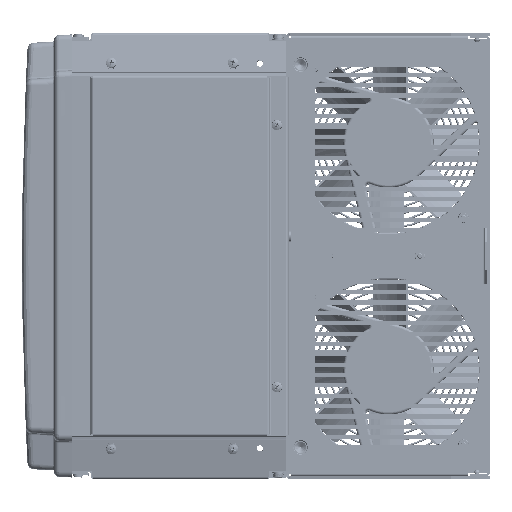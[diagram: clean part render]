
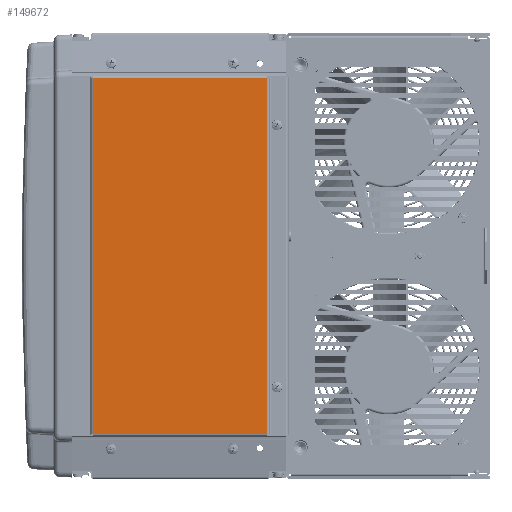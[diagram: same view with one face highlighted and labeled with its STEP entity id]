
A CAD part, left-side view. The second image highlights one B-rep face of the part: STEP entity #149672.
In plain terms, the highlighted planar face has unit normal (-1, 0, 0) as drawn and (0, 0, -1) by its records, which use the part's own axes.
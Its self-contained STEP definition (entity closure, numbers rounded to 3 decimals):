
#10279 = DIRECTION ( 'NONE',  ( 1., 0., 0. ) ) ;
#30749 = FACE_OUTER_BOUND ( 'NONE', #452975, .T. ) ;
#64005 = CARTESIAN_POINT ( 'NONE',  ( -137.5, 173.5, 0. ) ) ;
#104866 = DIRECTION ( 'NONE',  ( 0., 0., 1. ) ) ;
#123897 = CARTESIAN_POINT ( 'NONE',  ( -151.5, 147., 0. ) ) ;
#127893 = VERTEX_POINT ( 'NONE', #154317 ) ;
#149672 = ADVANCED_FACE ( 'NONE', ( #30749 ), #307366, .F. ) ;
#154317 = CARTESIAN_POINT ( 'NONE',  ( -135.5, 14.5, 0. ) ) ;
#157010 = ORIENTED_EDGE ( 'NONE', *, *, #262521, .F. ) ;
#164692 = DIRECTION ( 'NONE',  ( 1., 0., 0. ) ) ;
#175442 = AXIS2_PLACEMENT_3D ( 'NONE', #64005, #104866, #388998 ) ;
#181229 = CARTESIAN_POINT ( 'NONE',  ( -135.5, 173.5, 0. ) ) ;
#183364 = VECTOR ( 'NONE', #470197, 1000. ) ;
#196083 = LINE ( 'NONE', #511006, #183364 ) ;
#238223 = EDGE_CURVE ( 'NONE', #483480, #504192, #196083, .T. ) ;
#248612 = CARTESIAN_POINT ( 'NONE',  ( 135.5, 14.5, 0. ) ) ;
#257948 = CARTESIAN_POINT ( 'NONE',  ( -135.5, 147., 0. ) ) ;
#262521 = EDGE_CURVE ( 'NONE', #466243, #127893, #341449, .T. ) ;
#275946 = ORIENTED_EDGE ( 'NONE', *, *, #238223, .T. ) ;
#277623 = CARTESIAN_POINT ( 'NONE',  ( 135.5, 147., 0. ) ) ;
#296209 = CARTESIAN_POINT ( 'NONE',  ( -151.5, 14.5, 0. ) ) ;
#307366 = PLANE ( 'NONE',  #175442 ) ;
#314341 = EDGE_CURVE ( 'NONE', #127893, #504192, #524961, .T. ) ;
#341449 = LINE ( 'NONE', #181229, #449608 ) ;
#388998 = DIRECTION ( 'NONE',  ( 1., 0., 0. ) ) ;
#389361 = VECTOR ( 'NONE', #164692, 1000. ) ;
#404191 = EDGE_CURVE ( 'NONE', #466243, #483480, #510229, .T. ) ;
#411126 = ORIENTED_EDGE ( 'NONE', *, *, #314341, .F. ) ;
#416901 = VECTOR ( 'NONE', #10279, 1000. ) ;
#420973 = DIRECTION ( 'NONE',  ( 0., -1., 0. ) ) ;
#449608 = VECTOR ( 'NONE', #420973, 1000. ) ;
#452975 = EDGE_LOOP ( 'NONE', ( #275946, #411126, #157010, #522097 ) ) ;
#466243 = VERTEX_POINT ( 'NONE', #257948 ) ;
#470197 = DIRECTION ( 'NONE',  ( 0., -1., 0. ) ) ;
#483480 = VERTEX_POINT ( 'NONE', #277623 ) ;
#504192 = VERTEX_POINT ( 'NONE', #248612 ) ;
#510229 = LINE ( 'NONE', #123897, #389361 ) ;
#511006 = CARTESIAN_POINT ( 'NONE',  ( 135.5, 173.5, 0. ) ) ;
#522097 = ORIENTED_EDGE ( 'NONE', *, *, #404191, .T. ) ;
#524961 = LINE ( 'NONE', #296209, #416901 ) ;
